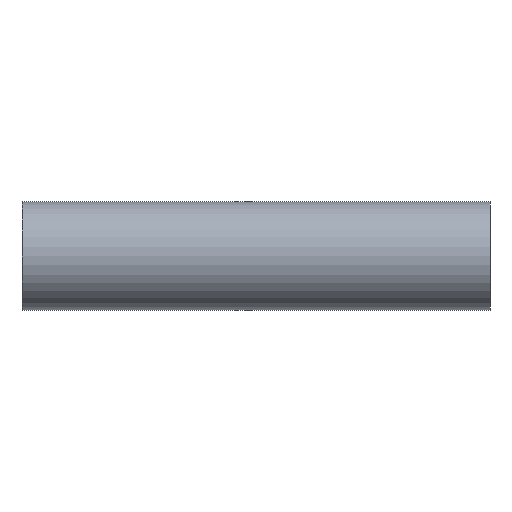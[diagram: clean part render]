
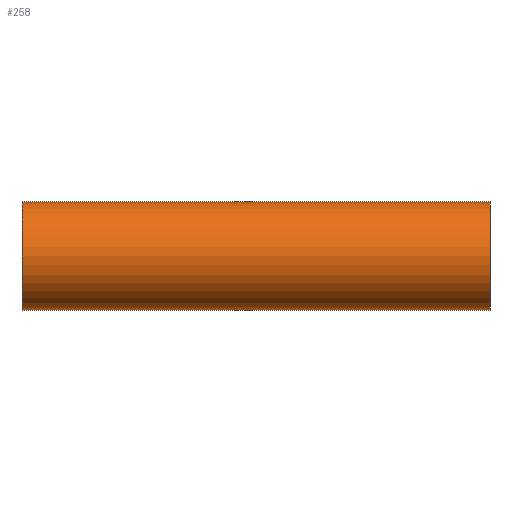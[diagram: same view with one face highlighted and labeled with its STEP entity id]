
A CAD part, front view. The second image highlights one B-rep face of the part: STEP entity #258.
In plain terms, the highlighted cylindrical face has radius 25.4 mm (diameter 50.8 mm), a partial arc.
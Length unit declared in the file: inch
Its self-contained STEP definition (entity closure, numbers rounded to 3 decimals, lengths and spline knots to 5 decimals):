
#21 = AXIS2_PLACEMENT_3D ( 'NONE', #476, #379, #50 ) ;
#25 = ORIENTED_EDGE ( 'NONE', *, *, #457, .T. ) ;
#27 = CARTESIAN_POINT ( 'NONE',  ( -1.625, 0., 0. ) ) ;
#31 = CIRCLE ( 'NONE', #209, 1. ) ;
#50 = DIRECTION ( 'NONE',  ( 0., 0., -1. ) ) ;
#56 = DIRECTION ( 'NONE',  ( 0., 0., -1. ) ) ;
#118 = VECTOR ( 'NONE', #486, 39.37008 ) ;
#138 = DIRECTION ( 'NONE',  ( 1., 0., 0. ) ) ;
#147 = CARTESIAN_POINT ( 'NONE',  ( -1.625, 0., 1. ) ) ;
#173 = VERTEX_POINT ( 'NONE', #316 ) ;
#188 = LINE ( 'NONE', #370, #469 ) ;
#194 = CARTESIAN_POINT ( 'NONE',  ( 7., 0., 0. ) ) ;
#198 = EDGE_CURVE ( 'NONE', #450, #173, #188, .T. ) ;
#202 = CARTESIAN_POINT ( 'NONE',  ( 7., 0., 1. ) ) ;
#209 = AXIS2_PLACEMENT_3D ( 'NONE', #194, #372, #56 ) ;
#241 = CYLINDRICAL_SURFACE ( 'NONE', #21, 1. ) ;
#258 = ADVANCED_FACE ( 'NONE', ( #279 ), #241, .T. ) ;
#262 = ORIENTED_EDGE ( 'NONE', *, *, #535, .F. ) ;
#269 = ORIENTED_EDGE ( 'NONE', *, *, #461, .F. ) ;
#279 = FACE_OUTER_BOUND ( 'NONE', #511, .T. ) ;
#296 = LINE ( 'NONE', #395, #118 ) ;
#299 = DIRECTION ( 'NONE',  ( 1., 0., 0. ) ) ;
#303 = ORIENTED_EDGE ( 'NONE', *, *, #198, .T. ) ;
#316 = CARTESIAN_POINT ( 'NONE',  ( 7., 0., -1. ) ) ;
#370 = CARTESIAN_POINT ( 'NONE',  ( -1.625, 0., -1. ) ) ;
#372 = DIRECTION ( 'NONE',  ( 1., 0., 0. ) ) ;
#379 = DIRECTION ( 'NONE',  ( 1., 0., 0. ) ) ;
#395 = CARTESIAN_POINT ( 'NONE',  ( -1.625, 0., 1. ) ) ;
#429 = VERTEX_POINT ( 'NONE', #202 ) ;
#447 = DIRECTION ( 'NONE',  ( 0., 0., -1. ) ) ;
#450 = VERTEX_POINT ( 'NONE', #568 ) ;
#455 = CIRCLE ( 'NONE', #571, 1. ) ;
#457 = EDGE_CURVE ( 'NONE', #577, #450, #455, .T. ) ;
#461 = EDGE_CURVE ( 'NONE', #577, #429, #296, .T. ) ;
#469 = VECTOR ( 'NONE', #138, 39.37008 ) ;
#476 = CARTESIAN_POINT ( 'NONE',  ( -1.625, 0., 0. ) ) ;
#486 = DIRECTION ( 'NONE',  ( 1., 0., 0. ) ) ;
#511 = EDGE_LOOP ( 'NONE', ( #269, #25, #303, #262 ) ) ;
#535 = EDGE_CURVE ( 'NONE', #429, #173, #31, .T. ) ;
#568 = CARTESIAN_POINT ( 'NONE',  ( -1.625, 0., -1. ) ) ;
#571 = AXIS2_PLACEMENT_3D ( 'NONE', #27, #299, #447 ) ;
#577 = VERTEX_POINT ( 'NONE', #147 ) ;
